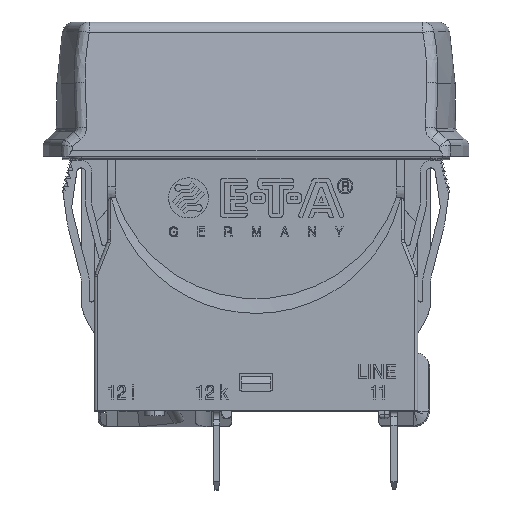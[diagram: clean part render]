
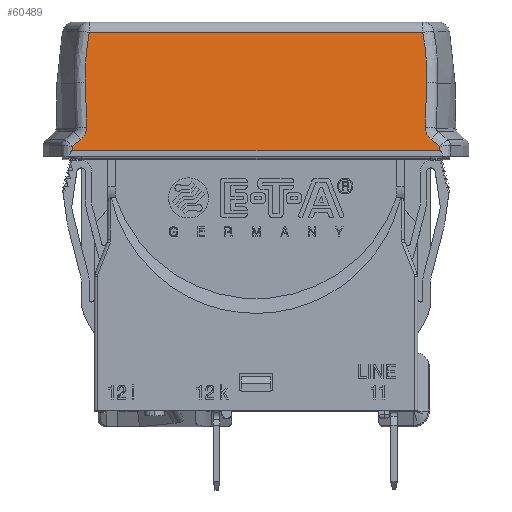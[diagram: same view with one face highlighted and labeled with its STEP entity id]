
A CAD part, top view. The second image highlights one B-rep face of the part: STEP entity #60489.
In plain terms, the highlighted planar face has unit normal (0, 0.113, 0.994).
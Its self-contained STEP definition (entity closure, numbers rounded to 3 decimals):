
#19336=CARTESIAN_POINT('',(-23.234,33.,14.6));
#19370=CARTESIAN_POINT('',(23.234,33.,14.6));
#19784=DIRECTION('',(1.,0.,0.));
#19785=VECTOR('',#19784,42.294);
#19786=CARTESIAN_POINT('',(-21.147,47.97,
12.894));
#19787=LINE('',#19786,#19785);
#19788=CARTESIAN_POINT('',(21.616,41.657,13.614));
#19789=CARTESIAN_POINT('',(21.633,42.08,13.565));
#19790=CARTESIAN_POINT('',(21.649,42.926,13.469));
#19791=CARTESIAN_POINT('',(21.614,44.195,13.324));
#19792=CARTESIAN_POINT('',(21.52,45.461,13.18));
#19793=CARTESIAN_POINT('',(21.367,46.722,13.037));
#19794=CARTESIAN_POINT('',(21.227,47.555,12.942));
#19795=CARTESIAN_POINT('',(21.147,47.97,12.894));
#19797=CARTESIAN_POINT('',(21.479,35.962,14.263));
#19798=CARTESIAN_POINT('',(21.491,36.442,14.208));
#19799=CARTESIAN_POINT('',(21.515,37.392,14.1));
#19800=CARTESIAN_POINT('',(21.548,38.767,13.943));
#19801=CARTESIAN_POINT('',(21.581,40.165,13.784));
#19802=CARTESIAN_POINT('',(21.604,41.153,13.671));
#19803=CARTESIAN_POINT('',(21.616,41.657,13.614));
#19805=CARTESIAN_POINT('',(22.2,34.401,14.44));
#19806=CARTESIAN_POINT('',(22.166,34.429,14.437));
#19807=CARTESIAN_POINT('',(22.099,34.488,14.43));
#19808=CARTESIAN_POINT('',(22.011,34.577,14.42));
#19809=CARTESIAN_POINT('',(21.929,34.669,14.41));
#19810=CARTESIAN_POINT('',(21.854,34.765,14.399));
#19811=CARTESIAN_POINT('',(21.786,34.864,14.388));
#19812=CARTESIAN_POINT('',(21.723,34.968,14.376));
#19813=CARTESIAN_POINT('',(21.667,35.076,14.363));
#19814=CARTESIAN_POINT('',(21.618,35.188,14.351));
#19815=CARTESIAN_POINT('',(21.576,35.301,14.338));
#19816=CARTESIAN_POINT('',(21.542,35.418,14.325));
#19817=CARTESIAN_POINT('',(21.514,35.537,14.311));
#19818=CARTESIAN_POINT('',(21.494,35.662,14.297));
#19819=CARTESIAN_POINT('',(21.48,35.799,14.281));
#19820=CARTESIAN_POINT('',(21.478,35.906,14.269));
#19821=CARTESIAN_POINT('',(21.479,35.962,14.263));
#19823=CARTESIAN_POINT('',(23.256,33.528,14.54));
#19824=CARTESIAN_POINT('',(23.151,33.615,14.53));
#19825=CARTESIAN_POINT('',(22.933,33.795,14.509));
#19826=CARTESIAN_POINT('',(22.585,34.083,14.477));
#19827=CARTESIAN_POINT('',(22.332,34.292,14.453));
#19828=CARTESIAN_POINT('',(22.2,34.401,14.44));
#19830=CARTESIAN_POINT('',(23.256,33.528,14.54));
#19831=CARTESIAN_POINT('',(23.253,33.445,14.549));
#19832=CARTESIAN_POINT('',(23.246,33.275,14.569));
#19833=CARTESIAN_POINT('',(23.238,33.094,14.589));
#19834=CARTESIAN_POINT('',(23.234,33.,14.6));
#19836=DIRECTION('',(-1.,0.,0.));
#19837=VECTOR('',#19836,46.468);
#19838=CARTESIAN_POINT('',(23.234,33.,14.6));
#19839=LINE('',#19838,#19837);
#19840=CARTESIAN_POINT('',(-23.256,33.528,
14.54));
#19841=CARTESIAN_POINT('',(-23.253,33.445,
14.549));
#19842=CARTESIAN_POINT('',(-23.245,33.274,
14.569));
#19843=CARTESIAN_POINT('',(-23.238,33.093,
14.589));
#19844=CARTESIAN_POINT('',(-23.234,33.,14.6));
#19846=CARTESIAN_POINT('',(-22.2,34.401,
14.44));
#19847=CARTESIAN_POINT('',(-22.32,34.302,
14.452));
#19848=CARTESIAN_POINT('',(-22.558,34.105,
14.474));
#19849=CARTESIAN_POINT('',(-22.897,33.825,
14.506));
#19850=CARTESIAN_POINT('',(-23.136,33.627,
14.529));
#19851=CARTESIAN_POINT('',(-23.256,33.528,
14.54));
#19853=CARTESIAN_POINT('',(-21.479,35.962,
14.263));
#19854=CARTESIAN_POINT('',(-21.478,35.916,
14.268));
#19855=CARTESIAN_POINT('',(-21.479,35.826,
14.278));
#19856=CARTESIAN_POINT('',(-21.489,35.7,
14.292));
#19857=CARTESIAN_POINT('',(-21.507,35.577,
14.306));
#19858=CARTESIAN_POINT('',(-21.532,35.458,
14.32));
#19859=CARTESIAN_POINT('',(-21.564,35.34,
14.333));
#19860=CARTESIAN_POINT('',(-21.604,35.225,
14.346));
#19861=CARTESIAN_POINT('',(-21.65,35.113,
14.359));
#19862=CARTESIAN_POINT('',(-21.704,35.004,
14.372));
#19863=CARTESIAN_POINT('',(-21.764,34.899,
14.384));
#19864=CARTESIAN_POINT('',(-21.831,34.797,
14.395));
#19865=CARTESIAN_POINT('',(-21.905,34.699,
14.406));
#19866=CARTESIAN_POINT('',(-21.986,34.603,
14.417));
#19867=CARTESIAN_POINT('',(-22.08,34.505,
14.428));
#19868=CARTESIAN_POINT('',(-22.158,34.436,
14.436));
#19869=CARTESIAN_POINT('',(-22.2,34.401,
14.44));
#19871=CARTESIAN_POINT('',(-21.616,41.657,
13.614));
#19872=CARTESIAN_POINT('',(-21.603,41.092,
13.678));
#19873=CARTESIAN_POINT('',(-21.576,39.917,
13.812));
#19874=CARTESIAN_POINT('',(-21.531,38.061,
14.023));
#19875=CARTESIAN_POINT('',(-21.497,36.681,
14.181));
#19876=CARTESIAN_POINT('',(-21.479,35.962,
14.263));
#19878=CARTESIAN_POINT('',(-21.147,47.97,
12.894));
#19879=CARTESIAN_POINT('',(-21.227,47.554,
12.942));
#19880=CARTESIAN_POINT('',(-21.367,46.721,
13.037));
#19881=CARTESIAN_POINT('',(-21.52,45.461,
13.18));
#19882=CARTESIAN_POINT('',(-21.614,44.196,
13.324));
#19883=CARTESIAN_POINT('',(-21.649,42.927,
13.469));
#19884=CARTESIAN_POINT('',(-21.634,42.08,
13.565));
#19885=CARTESIAN_POINT('',(-21.616,41.657,
13.614));
#28801=VERTEX_POINT('',#19336);
#28803=VERTEX_POINT('',#19840);
#28805=VERTEX_POINT('',#19846);
#28806=VERTEX_POINT('',#19853);
#28808=VERTEX_POINT('',#19871);
#28813=VERTEX_POINT('',#19823);
#28814=VERTEX_POINT('',#19828);
#28816=VERTEX_POINT('',#19821);
#28818=VERTEX_POINT('',#19803);
#28819=VERTEX_POINT('',#19370);
#28845=CARTESIAN_POINT('',(21.147,47.97,12.894));
#28846=VERTEX_POINT('',#28845);
#28851=CARTESIAN_POINT('',(-21.147,47.97,
12.894));
#28852=VERTEX_POINT('',#28851);
#60462=CARTESIAN_POINT('',(-25.384,33.,14.6));
#60463=DIRECTION('',(0.,0.113,0.994));
#60464=DIRECTION('',(1.,0.,0.));
#60465=AXIS2_PLACEMENT_3D('',#60462,#60463,#60464);
#60466=PLANE('',#60465);
#60468=ORIENTED_EDGE('',*,*,#60467,.T.);
#60470=ORIENTED_EDGE('',*,*,#60469,.F.);
#60472=ORIENTED_EDGE('',*,*,#60471,.F.);
#60474=ORIENTED_EDGE('',*,*,#60473,.F.);
#60475=ORIENTED_EDGE('',*,*,#60452,.F.);
#60476=ORIENTED_EDGE('',*,*,#59633,.T.);
#60477=ORIENTED_EDGE('',*,*,#59649,.T.);
#60478=ORIENTED_EDGE('',*,*,#59697,.F.);
#60480=ORIENTED_EDGE('',*,*,#60479,.F.);
#60482=ORIENTED_EDGE('',*,*,#60481,.F.);
#60484=ORIENTED_EDGE('',*,*,#60483,.F.);
#60486=ORIENTED_EDGE('',*,*,#60485,.F.);
#60487=EDGE_LOOP('',(#60468,#60470,#60472,#60474,#60475,#60476,#60477,#60478,
#60480,#60482,#60484,#60486));
#60488=FACE_OUTER_BOUND('',#60487,.F.);
#19796=B_SPLINE_CURVE_WITH_KNOTS('',3,(#19788,#19789,#19790,#19791,#19792,
#19793,#19794,#19795),.UNSPECIFIED.,.F.,.F.,(4,1,1,1,1,4),(0.,0.2,0.4,
0.6,0.8,1.),.UNSPECIFIED.);
#19804=B_SPLINE_CURVE_WITH_KNOTS('',3,(#19797,#19798,#19799,#19800,#19801,
#19802,#19803),.UNSPECIFIED.,.F.,.F.,(4,1,1,1,4),(0.,0.25,0.5,0.75,
1.),.UNSPECIFIED.);
#19822=B_SPLINE_CURVE_WITH_KNOTS('',3,(#19805,#19806,#19807,#19808,#19809,
#19810,#19811,#19812,#19813,#19814,#19815,#19816,#19817,#19818,#19819,#19820,
#19821),.UNSPECIFIED.,.F.,.F.,(4,1,1,1,1,1,1,1,1,1,1,1,1,1,4),(0.,
0.071,0.143,0.214,0.286,
0.357,0.429,0.5,0.571,0.643,
0.714,0.786,0.857,0.929,1.),
.UNSPECIFIED.);
#19829=B_SPLINE_CURVE_WITH_KNOTS('',3,(#19823,#19824,#19825,#19826,#19827,
#19828),.UNSPECIFIED.,.F.,.F.,(4,1,1,4),(0.,0.333,
0.667,1.),.UNSPECIFIED.);
#19835=B_SPLINE_CURVE_WITH_KNOTS('',3,(#19830,#19831,#19832,#19833,#19834),
.UNSPECIFIED.,.F.,.F.,(4,1,4),(0.,0.5,1.),.UNSPECIFIED.);
#19845=B_SPLINE_CURVE_WITH_KNOTS('',3,(#19840,#19841,#19842,#19843,#19844),
.UNSPECIFIED.,.F.,.F.,(4,1,4),(0.,0.5,1.),.UNSPECIFIED.);
#19852=B_SPLINE_CURVE_WITH_KNOTS('',3,(#19846,#19847,#19848,#19849,#19850,
#19851),.UNSPECIFIED.,.F.,.F.,(4,1,1,4),(0.,0.333,
0.667,1.),.UNSPECIFIED.);
#19870=B_SPLINE_CURVE_WITH_KNOTS('',3,(#19853,#19854,#19855,#19856,#19857,
#19858,#19859,#19860,#19861,#19862,#19863,#19864,#19865,#19866,#19867,#19868,
#19869),.UNSPECIFIED.,.F.,.F.,(4,1,1,1,1,1,1,1,1,1,1,1,1,1,4),(0.,
0.071,0.143,0.214,0.286,
0.357,0.429,0.5,0.571,0.643,
0.714,0.786,0.857,0.929,1.),
.UNSPECIFIED.);
#19877=B_SPLINE_CURVE_WITH_KNOTS('',3,(#19871,#19872,#19873,#19874,#19875,
#19876),.UNSPECIFIED.,.F.,.F.,(4,1,1,4),(0.,0.333,
0.667,1.),.UNSPECIFIED.);
#19886=B_SPLINE_CURVE_WITH_KNOTS('',3,(#19878,#19879,#19880,#19881,#19882,
#19883,#19884,#19885),.UNSPECIFIED.,.F.,.F.,(4,1,1,1,1,4),(0.,0.2,0.4,
0.6,0.8,1.),.UNSPECIFIED.);
#59633=EDGE_CURVE('',#28813,#28819,#19835,.T.);
#59649=EDGE_CURVE('',#28819,#28801,#19839,.T.);
#59697=EDGE_CURVE('',#28803,#28801,#19845,.T.);
#60452=EDGE_CURVE('',#28813,#28814,#19829,.T.);
#60467=EDGE_CURVE('',#28852,#28846,#19787,.T.);
#60469=EDGE_CURVE('',#28818,#28846,#19796,.T.);
#60471=EDGE_CURVE('',#28816,#28818,#19804,.T.);
#60473=EDGE_CURVE('',#28814,#28816,#19822,.T.);
#60479=EDGE_CURVE('',#28805,#28803,#19852,.T.);
#60481=EDGE_CURVE('',#28806,#28805,#19870,.T.);
#60483=EDGE_CURVE('',#28808,#28806,#19877,.T.);
#60485=EDGE_CURVE('',#28852,#28808,#19886,.T.);
#60489=ADVANCED_FACE('',(#60488),#60466,.T.);
